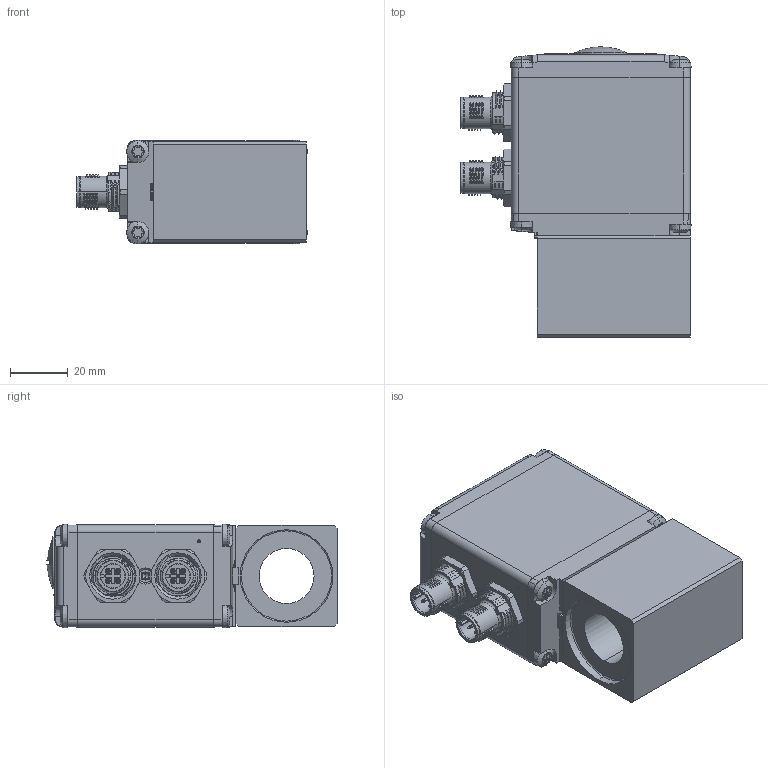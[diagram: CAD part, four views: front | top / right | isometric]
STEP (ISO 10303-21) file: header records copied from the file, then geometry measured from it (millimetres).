
FILE_DESCRIPTION (( 'STEP AP214' ), '1' );
FILE_NAME ('ME35_19x50-PI...C.STEP', '2014-01-22T08:07:17', ( '' ), ( '' ), 'SwSTEP 2.0', 'SolidWorks 2012', '' );
FILE_SCHEMA (( 'AUTOMOTIVE_DESIGN' ));
Length unit declared in the file: millimetre
Products named in the file (1): ME35_19x50-PI...C
Bounding box: 79.8 x 100.39 x 35.9 mm (x, y, z)
Volume: 172415.6 mm3; surface area: 52602.8 mm2
Topology: 22 solids, 22 shells, 2952 faces, 7935 edges, 5122 vertices
Faces by surface type: plane 1382, cylinder 962, torus 215, cone 187, bspline 174, sphere 32
Entity records: 151680 total; most frequent: CARTESIAN_POINT 46653, ORIENTED_EDGE 15798, DIRECTION 14085, EDGE_CURVE 7899, VERTEX_POINT 5122, LINE 4775, VECTOR 4775, AXIS2_PLACEMENT_3D 4655
